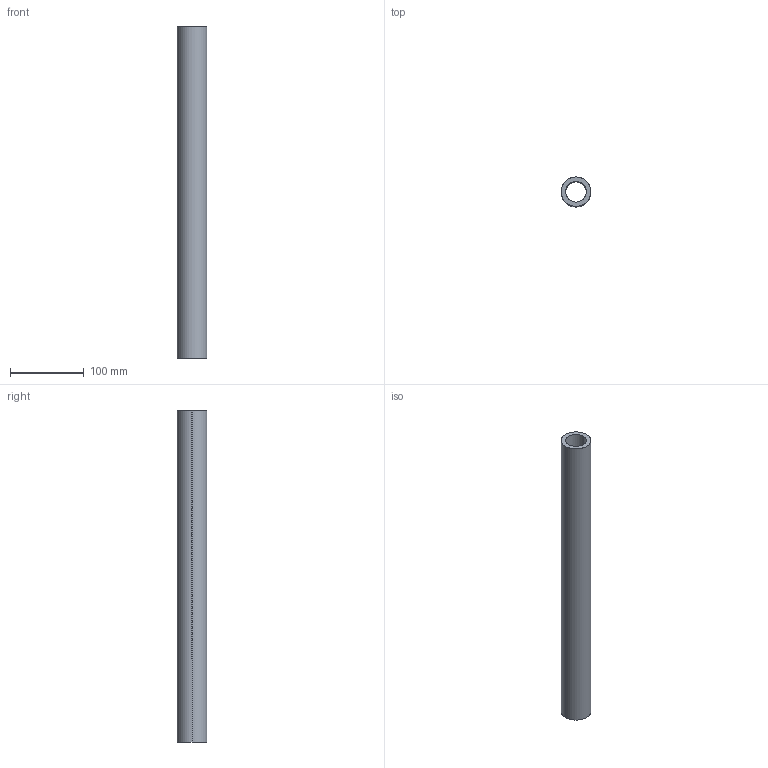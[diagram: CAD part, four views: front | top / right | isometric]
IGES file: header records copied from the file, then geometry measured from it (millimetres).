
Start section: SolidWorks IGES file using analytic representation for surfaces
Global section: file name: C:\Users\IanO\Desktop\L1771_v2\L1771.40_v2\L1771.40_v2_20230705_IGES\L1771.40-0450.igs; native system: SolidWorks 2019; preprocessor: SolidWorks 2019; author: IanO; date: 230705.155953; units: millimetre
Bounding box: 40 x 40 x 450 mm (x, y, z)
Surface area: 97414.5 mm2 (no closed solid volume)
Topology: 0 solids, 0 shells, 6 faces, 272 edges, 272 vertices
Faces by surface type: revolution 4, bspline 2
